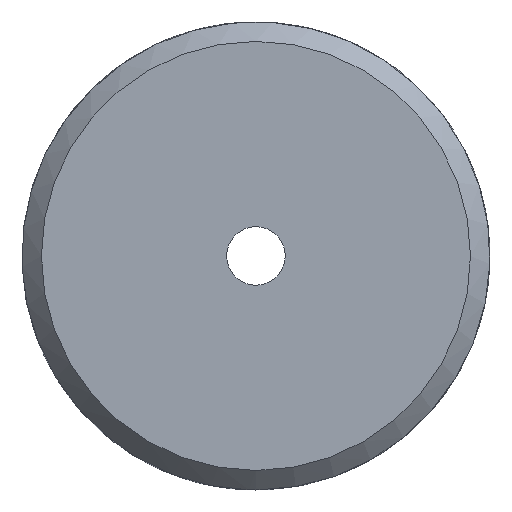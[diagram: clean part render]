
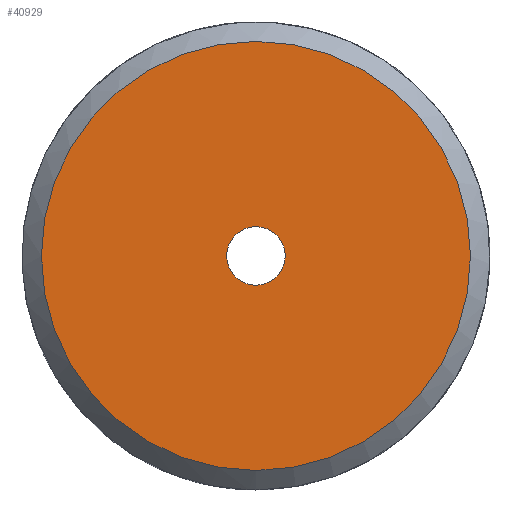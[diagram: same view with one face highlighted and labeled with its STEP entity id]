
A CAD part, left-side view. The second image highlights one B-rep face of the part: STEP entity #40929.
In plain terms, the highlighted planar face has unit normal (-1, 0, 0).
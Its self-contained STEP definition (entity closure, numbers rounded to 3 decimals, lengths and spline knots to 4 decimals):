
#12007=PLANE('',#40452);
#15362=ORIENTED_EDGE('',*,*,#17849,.F.);
#15363=ORIENTED_EDGE('',*,*,#17848,.F.);
#15770=CIRCLE('',#40451,0.75);
#15771=CIRCLE('',#40453,5.5);
#16650=VERTEX_POINT('',#39736);
#16651=VERTEX_POINT('',#39739);
#17848=EDGE_CURVE('',#16650,#16650,#15770,.T.);
#17849=EDGE_CURVE('',#16651,#16651,#15771,.T.);
#18174=EDGE_LOOP('',(#15362));
#18175=EDGE_LOOP('',(#15363));
#18502=FACE_BOUND('',#18174,.T.);
#18503=FACE_BOUND('',#18175,.T.);
#19920=DIRECTION('',(-1.,0.,0.));
#19921=DIRECTION('',(0.,-0.75,0.));
#19922=DIRECTION('',(-1.,0.,0.));
#19923=DIRECTION('',(0.,1.,0.));
#19924=DIRECTION('',(1.,0.,0.));
#19925=DIRECTION('',(0.,0.,-5.5));
#39736=CARTESIAN_POINT('',(58.0442,138.7396,0.));
#39737=CARTESIAN_POINT('',(58.0442,139.4896,0.));
#39738=CARTESIAN_POINT('',(58.0442,139.4896,-5.5));
#39739=CARTESIAN_POINT('',(58.0442,139.4896,-5.5));
#39740=CARTESIAN_POINT('',(58.0442,139.4896,0.));
#40451=AXIS2_PLACEMENT_3D('',#39737,#19920,#19921);
#40452=AXIS2_PLACEMENT_3D('',#39738,#19922,#19923);
#40453=AXIS2_PLACEMENT_3D('',#39740,#19924,#19925);
#40929=ADVANCED_FACE('',(#18502,#18503),#12007,.T.);
